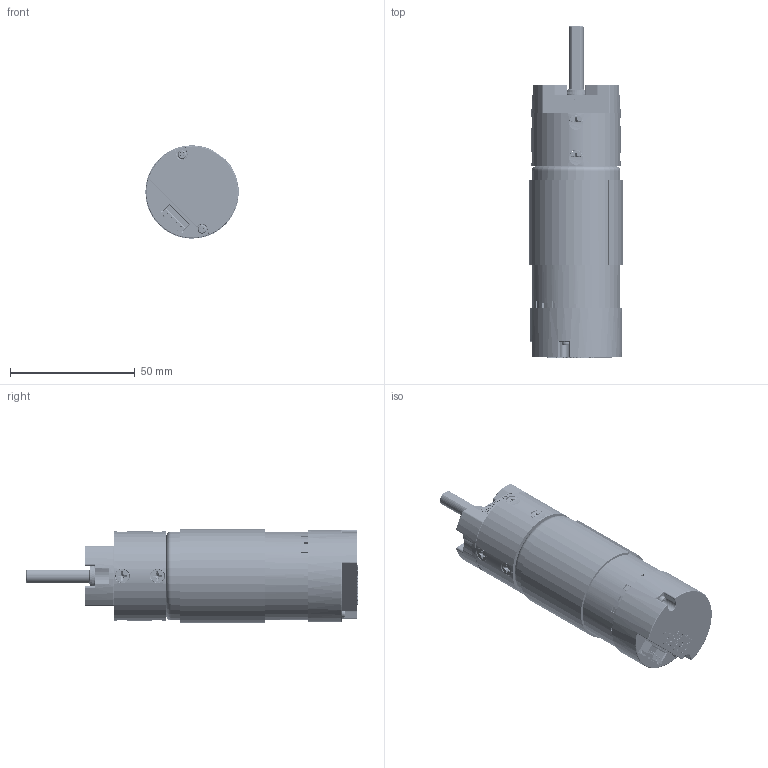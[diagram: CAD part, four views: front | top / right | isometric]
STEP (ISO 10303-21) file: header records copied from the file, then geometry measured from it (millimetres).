
FILE_DESCRIPTION(/* description */ (''),/* implementation_level */ '2;1');
FILE_NAME(/* name */ 'R:/Shared/Solidworks Files/(2) goBILDA/52 Gear Motors/5202 Series Gear Motors/In Warehouse/STEP Files/5202-2402-0005.step',/* time_stamp */ '2022-10-18T10:03:28-05:00',/* author */ (''),/* organization */ (''),/* preprocessor_version */ 'ST-DEVELOPER v19',/* originating_system */ 'Autodesk Translation Framework v11.7.0.108',/* authorisation */ '');
FILE_SCHEMA (('AUTOMOTIVE_DESIGN { 1 0 10303 214 3 1 1 }'));
Length unit declared in the file: millimetre
Products named in the file (23): 5202-2402-0005; 5000-0002-0001; 5000-0002-0001 body; 5000-0002-0001 motor shield; 5000-0002-0001 encoder cap; endcap; JST-XH-4POS-VERT (1); Plastic (1); Pin (1); screw; base; screw_1; 99461A915_Phillips Rounded Head Thread-Forming Screws (1); 5000-0002-0001 motor shaft; 5102-0024-0005; 5102 Gearbox Base; 5102 Gearbox Barrel (1 stage, simple)_Gear Blank; 5102 Gearbox Face; 5102 Gearbox Shaft (23.5mm Length, Simple); 5102 Gearbox Snap Ring; 5102 Gearbox Barrel Screw (M3 x 8mm length Flat Head)_92010A118; 5102 Gearbox Bearing; 5102 Gearbox Base Mounting Screw M3 x 5mm length SHCS)_91290A110
Assembly tree (37 placements, depth 5):
  5202-2402-0005
    5000-0002-0001
      5000-0002-0001 body
      5000-0002-0001 motor shield
      5000-0002-0001 encoder cap
        endcap
        JST-XH-4POS-VERT (1)
          Plastic (1)
          Pin (1)  x4
        screw
          99461A915_Phillips Rounded Head Thread-Forming Screws (1)
        base
        screw_1
          99461A915_Phillips Rounded Head Thread-Forming Screws (1)
      5000-0002-0001 motor shaft
    5102-0024-0005
      5102 Gearbox Base
      5102 Gearbox Barrel (1 stage, simple)_Gear Blank
      5102 Gearbox Barrel Screw (M3 x 8mm length Flat Head)_92010A118  x8
      5102 Gearbox Face
      5102 Gearbox Bearing  x2
      5102 Gearbox Shaft (23.5mm Length, Simple)
      5102 Gearbox Snap Ring
      5102 Gearbox Base Mounting Screw M3 x 5mm length SHCS)_91290A110  x4
Bounding box: 37.46 x 133.17 x 37.48 mm (x, y, z)
Volume: 55134.3 mm3; surface area: 50746.6 mm2
Topology: 67 solids, 67 shells, 3428 faces, 8520 edges, 5301 vertices
Faces by surface type: cylinder 1237, plane 955, bspline 630, cone 299, sphere 160, torus 147
Full cylindrical faces by diameter (mm): 1.15 x10, 1.7 x2, 2 x14, 2.323 x88, 2.35 x100, 2.5 x57, 3 x264, 3.05 x8, 3.1 x4, 3.14 x1, 3.175 x1, 3.3 x77, 3.5 x2, 4 x74, 5.5 x4, 8 x2, 8.7 x1, 8.97 x2, 9 x2, 11.15 x4, 11.415 x4, 12.96 x1, 13 x1, 15 x1, 15.65 x4, 16.45 x4, 17 x4, 31.9 x2, 32 x2, 34 x1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
Entity records: 141799 total; most frequent: CARTESIAN_POINT 94683, ORIENTED_EDGE 10602, DIRECTION 8099, EDGE_CURVE 5301, VERTEX_POINT 3440, AXIS2_PLACEMENT_3D 2791, LINE 2517, VECTOR 2517
